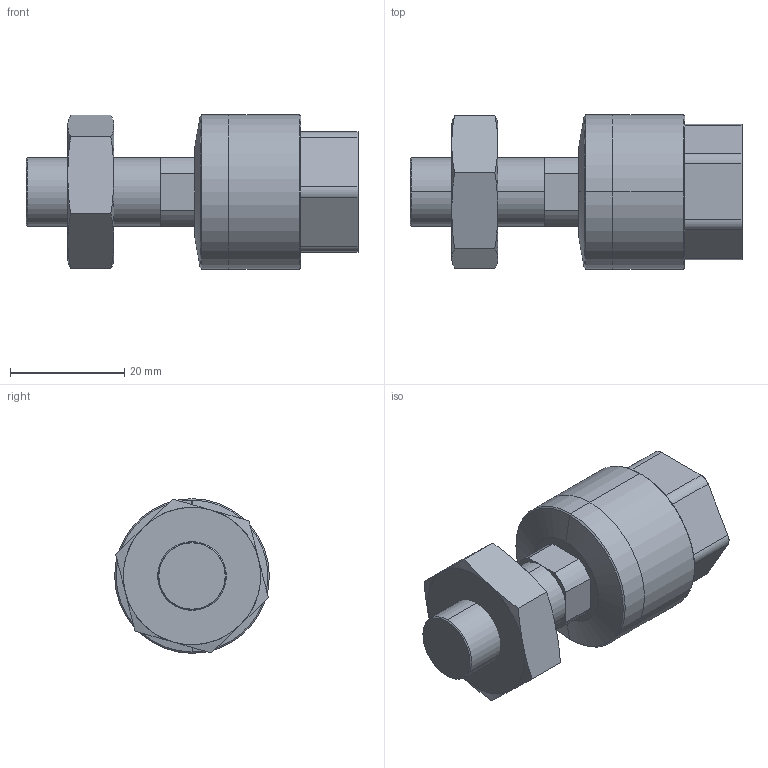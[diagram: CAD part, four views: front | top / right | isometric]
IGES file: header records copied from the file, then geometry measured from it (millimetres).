
Start section: SolidWorks IGES file using analytic representation for surfaces
Global section: file name: D:\MI\新增資料夾\FC\FCM12A-1.5.IGS; native system: SolidWorks 2013; preprocessor: SolidWorks 2013; author: Sam Lin; date: 160323.114108; units: millimetre
Bounding box: 58 x 27 x 27 mm (x, y, z)
Surface area: 6651.9 mm2 (no closed solid volume)
Topology: 0 solids, 0 shells, 68 faces, 806 edges, 804 vertices
Faces by surface type: bspline 38, revolution 30
